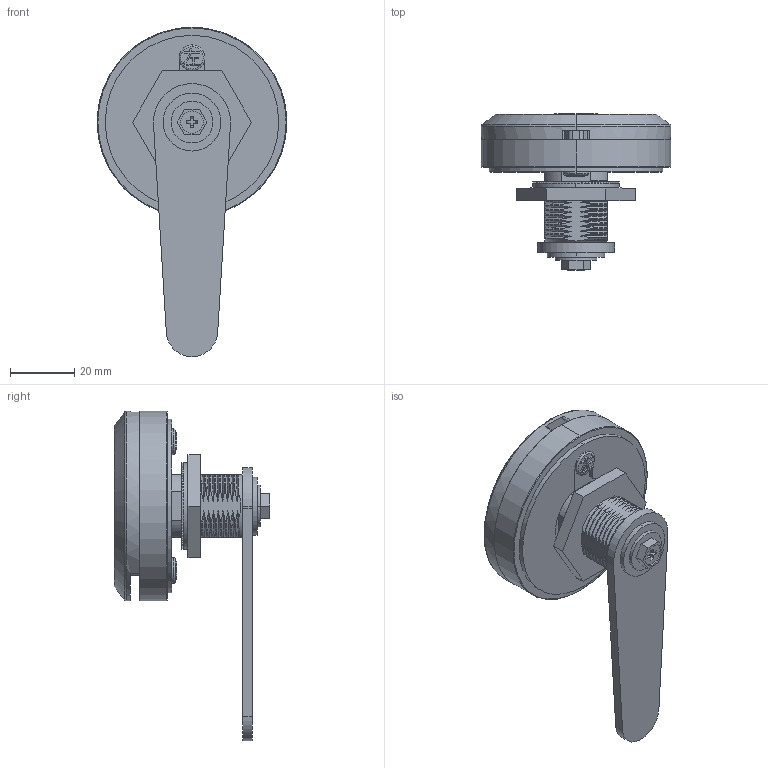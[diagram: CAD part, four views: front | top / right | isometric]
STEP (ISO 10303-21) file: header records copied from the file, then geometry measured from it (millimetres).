
FILE_DESCRIPTION (( 'STEP AP203' ), '1' );
FILE_NAME ('SK1-002.STEP', '2018-11-01T02:07:01', ( 'admin' ), ( 'Microsoft' ), 'SwSTEP 2.0', 'SolidWorks 2015', '' );
FILE_SCHEMA (( 'CONFIG_CONTROL_DESIGN' ));
Length unit declared in the file: millimetre
Products named in the file (10): SK1-002.6; 带垫片十字M6公称长度10; SK1-002; SK1-002.1; SK1-002.2; SK1-002.3; SK1-002.4; SK1-002.5; M22蹟譫鼠備6
Assembly tree (9 placements, depth 2):
  SK1-002
    SK1-002
    SK1-002.1
    SK1-002.2
    SK1-002.3
    SK1-002.4
    SK1-002.5
    M22蹟譫鼠備6
    SK1-002.6
    带垫片十字M6公称长度10
Bounding box: 59 x 48.5 x 102.5 mm (x, y, z)
Volume: 46294.6 mm3; surface area: 36658.6 mm2
Topology: 9 solids, 9 shells, 895 faces, 2508 edges, 1660 vertices
Faces by surface type: plane 431, cylinder 291, bspline 137, torus 21, cone 15
Entity records: 75988 total; most frequent: CARTESIAN_POINT 52893, ORIENTED_EDGE 5012, DIRECTION 4212, EDGE_CURVE 2506, VERTEX_POINT 1660, AXIS2_PLACEMENT_3D 1435, LINE 1342, VECTOR 1342
